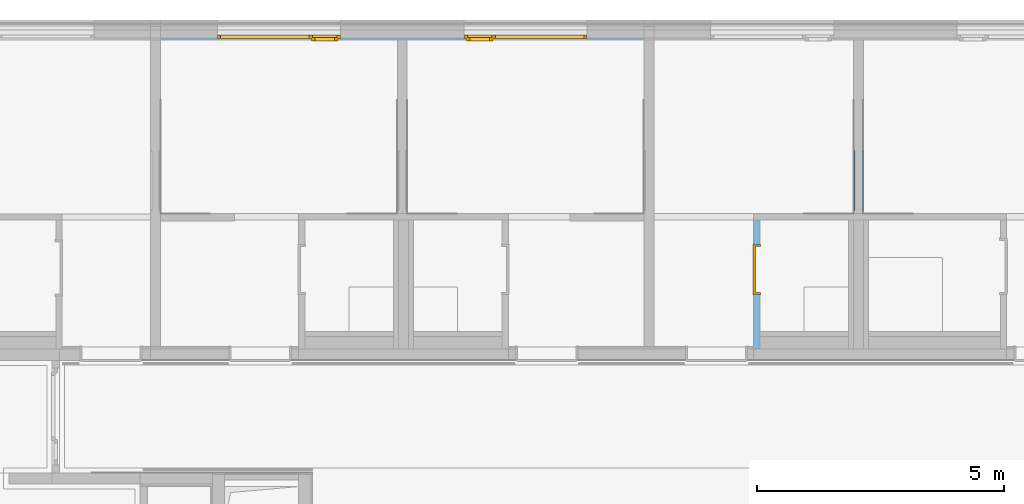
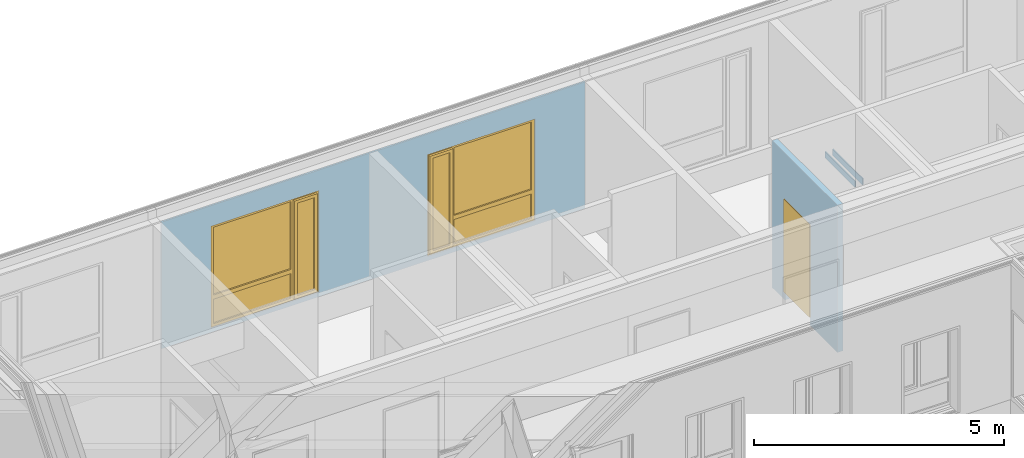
# One storey, part 148 of 207: 2 walls, 2 windows, 1 door, 3 openings, plus 2 elements that do not belong to this part.
"""IFC4 building model written with IfcOpenShell, lengths in metres."""

from ifc_helpers import new_model, entity, si_unit, converted_unit, derived_unit, frame, frame_2d, origin, origin_with_axes, place, context, subcontext, project, spatial, polyline, rectangle, outline, extrude, closed_shell, open_shell, faceted_brep, surface_model, source, transform, mapped, material, type_object, element, fill, save


model = new_model("IFC4")

# Units and contexts
model_context = context("Model", 3, precision=1e-05, world=origin())
body_context = subcontext(model_context, "Body", "Model", "MODEL_VIEW")
ifc_project = project(units=[si_unit("LENGTHUNIT", "METRE"), si_unit("AREAUNIT", "SQUARE_METRE"), si_unit("VOLUMEUNIT", "CUBIC_METRE"), si_unit("MASSUNIT", "GRAM", prefix="KILO"), converted_unit("PLANEANGLEUNIT", "DEGREE", entity("IfcPlaneAngleMeasure", 0.0174532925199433), si_unit("PLANEANGLEUNIT", "RADIAN"), dimensions=[0, 0, 0, 0, 0, 0, 0]), derived_unit("THERMALTRANSMITTANCEUNIT", [(si_unit("POWERUNIT", "WATT"), 1), (si_unit("THERMODYNAMICTEMPERATUREUNIT", "KELVIN"), -1), (si_unit("LENGTHUNIT", "METRE"), -2)]), derived_unit("VOLUMETRICFLOWRATEUNIT", [(si_unit("LENGTHUNIT", "METRE"), 3), (converted_unit("TIMEUNIT", "hour", entity("IfcTimeMeasure", 3600.0), si_unit("TIMEUNIT", "SECOND"), dimensions=[0, 0, 1, 0, 0, 0, 0]), -1), (si_unit("LENGTHUNIT", "METRE"), -1)])], contexts=[model_context])

# Site, building, storey
site_placement = place(None, origin())
site = spatial("IfcSite", under=ifc_project, at=site_placement, Name="Psychiatrie Neubau Wunstorf", CompositionType="ELEMENT")
building_placement = place(site_placement, origin())
building = spatial("IfcBuilding", under=site, at=building_placement, Name="Neubau H2 Stationsgebäude", CompositionType="ELEMENT")
storey_placement = place(building_placement, frame((0.0, 0.0, -0.2)))
storey = spatial("IfcBuildingStorey", under=building, at=storey_placement, Name="H2 Ebene 0", CompositionType="ELEMENT", Elevation=-0.2)

# Wall, openings, windows
ifc_material_1 = material(Name="WA-LB")
wall_1_placement = place(storey_placement, frame((76.1, 31.614, 0.5)))
wall_1 = element("IfcWall", 1, at=wall_1_placement, inside=storey, material=ifc_material_1, context=body_context, shape_type="SweptSolid", body=[
    extrude(rectangle(XDim=9.8, YDim=0.036, at=frame_2d((4.9, 0.018), x_axis=(1.0, 0.0))), origin_with_axes(), (0.0, 0.0, 1.0), 3.1),
])
opening_1_placement = place(wall_1_placement, frame((1.15, 0.0, 0.1), z_axis=(0.0, 1.0, 0.0), x_axis=(0.0, 0.0, 1.0)))
opening_1 = element("IfcOpeningElement", 2, at=opening_1_placement, cuts=wall_1, Name="Fensteröffnung", ObjectType="Opening", context=body_context, shape_type="SweptSolid", body=[
    extrude(outline(polyline([(2.5, 2.5), (2.5, 0.0), (0.0, 0.0), (0.0, 2.5), (2.5, 2.5)])), origin_with_axes(), (0.0, 0.0, 1.0), 0.036),
])
opening_2_placement = place(wall_1_placement, frame((6.15, 0.0, 0.1), z_axis=(0.0, 1.0, 0.0), x_axis=(0.0, 0.0, 1.0)))
opening_2 = element("IfcOpeningElement", 3, at=opening_2_placement, cuts=wall_1, Name="Fensteröffnung", ObjectType="Opening", context=body_context, shape_type="SweptSolid", body=[
    extrude(outline(polyline([(2.5, 2.5), (2.5, 0.0), (0.0, 0.0), (0.0, 2.5), (2.5, 2.5)])), origin_with_axes(), (0.0, 0.0, 1.0), 0.036),
])
shared_shape_1 = source(origin_with_axes(), body_context, "Body", "SurfaceModel", [
    surface_model("IfcShellBasedSurfaceModel", [(2.5, 0.0, 2.5), (2.5, 0.0, 0.0), (2.43, 0.0, 0.0), (2.43, 0.0, 2.5), (2.5, 0.0699999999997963, 0.0), (2.5, 0.0699999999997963, 2.5), (2.43, 0.0699999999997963, 2.5), (2.43, 0.0699999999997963, 0.0)], [closed_shell([[[0, 1, 2, 3]], [[4, 5, 6, 7]], [[1, 0, 5, 4]], [[2, 1, 4, 7]], [[3, 2, 7, 6]], [[0, 3, 6, 5]]], orient=[[False], [False], [False], [False], [False], [False]])]),
    surface_model("IfcShellBasedSurfaceModel", [(0.07, 0.0, 2.5), (0.07, 0.0, 0.0), (0.0, 0.0, 0.0), (0.0, 0.0, 2.5), (0.07, 0.0699999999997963, 0.0), (0.07, 0.0699999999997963, 2.5), (0.0, 0.0699999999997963, 2.5), (0.0, 0.0699999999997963, 0.0)], [closed_shell([[[0, 1, 2, 3]], [[4, 5, 6, 7]], [[1, 0, 5, 4]], [[2, 1, 4, 7]], [[3, 2, 7, 6]], [[0, 3, 6, 5]]], orient=[[False], [False], [False], [False], [False], [False]])]),
    surface_model("IfcShellBasedSurfaceModel", [(2.43, 0.0, 0.07), (2.43, 0.0, 0.0), (0.07, 0.0, 0.0), (0.07, 0.0, 0.07), (2.43, 0.0699999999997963, 0.0), (2.43, 0.0699999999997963, 0.07), (0.07, 0.0699999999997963, 0.07), (0.07, 0.0699999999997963, 0.0)], [closed_shell([[[0, 1, 2, 3]], [[4, 5, 6, 7]], [[1, 0, 5, 4]], [[2, 1, 4, 7]], [[3, 2, 7, 6]], [[0, 3, 6, 5]]], orient=[[False], [False], [False], [False], [False], [False]])]),
    surface_model("IfcShellBasedSurfaceModel", [(2.43, 0.0, 2.5), (2.43, 0.0, 2.43), (0.07, 0.0, 2.43), (0.07, 0.0, 2.5), (2.43, 0.0699999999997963, 2.43), (2.43, 0.0699999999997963, 2.5), (0.07, 0.0699999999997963, 2.5), (0.07, 0.0699999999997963, 2.43)], [closed_shell([[[0, 1, 2, 3]], [[4, 5, 6, 7]], [[1, 0, 5, 4]], [[2, 1, 4, 7]], [[3, 2, 7, 6]], [[0, 3, 6, 5]]], orient=[[False], [False], [False], [False], [False], [False]])]),
    surface_model("IfcShellBasedSurfaceModel", [(1.934285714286, 0.0, 2.43), (1.934285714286, 0.0, 0.07), (1.864285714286, 0.0, 0.07), (1.864285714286, 0.0, 2.43), (1.934285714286, 0.0699999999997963, 0.07), (1.934285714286, 0.0699999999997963, 2.43), (1.864285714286, 0.0699999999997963, 2.43), (1.864285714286, 0.0699999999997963, 0.07)], [closed_shell([[[0, 1, 2, 3]], [[4, 5, 6, 7]], [[1, 0, 5, 4]], [[2, 1, 4, 7]], [[3, 2, 7, 6]], [[0, 3, 6, 5]]], orient=[[False], [False], [False], [False], [False], [False]])]),
    surface_model("IfcShellBasedSurfaceModel", [(2.45, -0.0500000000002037, 2.45), (2.45, -0.0500000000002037, 0.05), (2.38, -0.0500000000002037, 0.05), (2.38, -0.0500000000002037, 2.45), (2.45, 0.0199999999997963, 0.05), (2.45, 0.0199999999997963, 2.45), (2.38, 0.0199999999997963, 2.45), (2.38, 0.0199999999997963, 0.05)], [closed_shell([[[0, 1, 2, 3]], [[4, 5, 6, 7]], [[1, 0, 5, 4]], [[2, 1, 4, 7]], [[3, 2, 7, 6]], [[0, 3, 6, 5]]], orient=[[False], [False], [False], [False], [False], [False]])]),
    surface_model("IfcShellBasedSurfaceModel", [(1.984285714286, -0.0500000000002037, 2.45), (1.984285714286, -0.0500000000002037, 0.05), (1.914285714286, -0.0500000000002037, 0.05), (1.914285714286, -0.0500000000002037, 2.45), (1.984285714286, 0.0199999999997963, 0.05), (1.984285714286, 0.0199999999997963, 2.45), (1.914285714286, 0.0199999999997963, 2.45), (1.914285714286, 0.0199999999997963, 0.05)], [closed_shell([[[0, 1, 2, 3]], [[4, 5, 6, 7]], [[1, 0, 5, 4]], [[2, 1, 4, 7]], [[3, 2, 7, 6]], [[0, 3, 6, 5]]], orient=[[False], [False], [False], [False], [False], [False]])]),
    surface_model("IfcShellBasedSurfaceModel", [(2.38, -0.0500000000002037, 0.12), (2.38, -0.0500000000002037, 0.05), (1.984285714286, -0.0500000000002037, 0.05), (1.984285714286, -0.0500000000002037, 0.12), (2.38, 0.0199999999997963, 0.05), (2.38, 0.0199999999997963, 0.12), (1.984285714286, 0.0199999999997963, 0.12), (1.984285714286, 0.0199999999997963, 0.05)], [closed_shell([[[0, 1, 2, 3]], [[4, 5, 6, 7]], [[1, 0, 5, 4]], [[2, 1, 4, 7]], [[3, 2, 7, 6]], [[0, 3, 6, 5]]], orient=[[False], [False], [False], [False], [False], [False]])]),
    surface_model("IfcShellBasedSurfaceModel", [(2.38, -0.0500000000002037, 2.45), (2.38, -0.0500000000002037, 2.38), (1.984285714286, -0.0500000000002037, 2.38), (1.984285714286, -0.0500000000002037, 2.45), (2.38, 0.0199999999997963, 2.38), (2.38, 0.0199999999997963, 2.45), (1.984285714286, 0.0199999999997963, 2.45), (1.984285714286, 0.0199999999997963, 2.38)], [closed_shell([[[0, 1, 2, 3]], [[4, 5, 6, 7]], [[1, 0, 5, 4]], [[2, 1, 4, 7]], [[3, 2, 7, 6]], [[0, 3, 6, 5]]], orient=[[False], [False], [False], [False], [False], [False]])]),
    surface_model("IfcShellBasedSurfaceModel", [(1.864285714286, 0.0, 0.77), (1.864285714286, 0.0, 0.67), (0.07, 0.0, 0.67), (0.07, 0.0, 0.77), (1.864285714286, 0.0699999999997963, 0.67), (1.864285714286, 0.0699999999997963, 0.77), (0.07, 0.0699999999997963, 0.77), (0.07, 0.0699999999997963, 0.67)], [closed_shell([[[0, 1, 2, 3]], [[4, 5, 6, 7]], [[1, 0, 5, 4]], [[2, 1, 4, 7]], [[3, 2, 7, 6]], [[0, 3, 6, 5]]], orient=[[False], [False], [False], [False], [False], [False]])]),
    surface_model("IfcShellBasedSurfaceModel", [(2.38, -0.0150000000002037, 0.12), (1.984285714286, -0.0150000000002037, 0.12), (1.984285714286, -0.0150000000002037, 2.38), (2.38, -0.0150000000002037, 2.38)], [open_shell([[[0, 1, 2, 3]]], orient=[[False]])]),
    surface_model("IfcShellBasedSurfaceModel", [(1.864285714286, 0.0349999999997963, 0.07), (0.07, 0.0349999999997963, 0.07), (0.07, 0.0349999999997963, 0.67), (1.864285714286, 0.0349999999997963, 0.67)], [open_shell([[[0, 1, 2, 3]]], orient=[[False]])]),
    surface_model("IfcShellBasedSurfaceModel", [(1.864285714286, 0.0349999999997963, 0.77), (0.07, 0.0349999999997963, 0.77), (0.07, 0.0349999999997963, 2.43), (1.864285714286, 0.0349999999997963, 2.43)], [open_shell([[[0, 1, 2, 3]]], orient=[[False]])]),
])
window_1_placement = place(opening_1_placement, frame((0.0, 0.0, 0.03), z_axis=(1.0, 0.0, 0.0), x_axis=(0.0, 1.0, 0.0)))
window_1 = element("IfcWindow", 4, at=window_1_placement, inside=storey, Name="Fenster", OverallHeight=2.5, OverallWidth=2.5, PartitioningType="USERDEFINED", PredefinedType="WINDOW", context=body_context, shape_type="MappedRepresentation", body=[
    mapped(shared_shape_1, transform((0.0, 0.0, 0.0), x_axis=(1.0, 0.0, 0.0), y_axis=(0.0, 1.0, 0.0), z_axis=(0.0, 0.0, 1.0), scale=1.0)),
])
fill(opening_1, window_1)
shared_shape_2 = source(origin_with_axes(), body_context, "Body", "SurfaceModel", [
    surface_model("IfcShellBasedSurfaceModel", [(0.0, 0.0, 2.5), (0.07, 0.0, 2.5), (0.07, 0.0, 0.0), (0.0, 0.0, 0.0), (0.0, 0.0699999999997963, 0.0), (0.07, 0.0699999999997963, 0.0), (0.07, 0.0699999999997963, 2.5), (0.0, 0.0699999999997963, 2.5)], [closed_shell([[[0, 1, 2, 3]], [[4, 5, 6, 7]], [[3, 4, 7, 0]], [[2, 5, 4, 3]], [[1, 6, 5, 2]], [[0, 7, 6, 1]]], orient=[[False], [False], [False], [False], [False], [False]])]),
    surface_model("IfcShellBasedSurfaceModel", [(2.43, 0.0, 2.5), (2.5, 0.0, 2.5), (2.5, 0.0, 0.0), (2.43, 0.0, 0.0), (2.43, 0.0699999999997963, 0.0), (2.5, 0.0699999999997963, 0.0), (2.5, 0.0699999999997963, 2.5), (2.43, 0.0699999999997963, 2.5)], [closed_shell([[[0, 1, 2, 3]], [[4, 5, 6, 7]], [[3, 4, 7, 0]], [[2, 5, 4, 3]], [[1, 6, 5, 2]], [[0, 7, 6, 1]]], orient=[[False], [False], [False], [False], [False], [False]])]),
    surface_model("IfcShellBasedSurfaceModel", [(0.07, 0.0, 0.07), (2.43, 0.0, 0.07), (2.43, 0.0, 0.0), (0.07, 0.0, 0.0), (0.07, 0.0699999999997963, 0.0), (2.43, 0.0699999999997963, 0.0), (2.43, 0.0699999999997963, 0.07), (0.07, 0.0699999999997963, 0.07)], [closed_shell([[[0, 1, 2, 3]], [[4, 5, 6, 7]], [[3, 4, 7, 0]], [[2, 5, 4, 3]], [[1, 6, 5, 2]], [[0, 7, 6, 1]]], orient=[[False], [False], [False], [False], [False], [False]])]),
    surface_model("IfcShellBasedSurfaceModel", [(0.07, 0.0, 2.5), (2.43, 0.0, 2.5), (2.43, 0.0, 2.43), (0.07, 0.0, 2.43), (0.07, 0.0699999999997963, 2.43), (2.43, 0.0699999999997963, 2.43), (2.43, 0.0699999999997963, 2.5), (0.07, 0.0699999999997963, 2.5)], [closed_shell([[[0, 1, 2, 3]], [[4, 5, 6, 7]], [[3, 4, 7, 0]], [[2, 5, 4, 3]], [[1, 6, 5, 2]], [[0, 7, 6, 1]]], orient=[[False], [False], [False], [False], [False], [False]])]),
    surface_model("IfcShellBasedSurfaceModel", [(0.565714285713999, 0.0, 2.43), (0.635714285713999, 0.0, 2.43), (0.635714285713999, 0.0, 0.07), (0.565714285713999, 0.0, 0.07), (0.565714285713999, 0.0699999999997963, 0.07), (0.635714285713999, 0.0699999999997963, 0.07), (0.635714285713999, 0.0699999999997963, 2.43), (0.565714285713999, 0.0699999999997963, 2.43)], [closed_shell([[[0, 1, 2, 3]], [[4, 5, 6, 7]], [[3, 4, 7, 0]], [[2, 5, 4, 3]], [[1, 6, 5, 2]], [[0, 7, 6, 1]]], orient=[[False], [False], [False], [False], [False], [False]])]),
    surface_model("IfcShellBasedSurfaceModel", [(0.05, -0.0500000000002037, 2.45), (0.12, -0.0500000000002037, 2.45), (0.12, -0.0500000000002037, 0.05), (0.05, -0.0500000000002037, 0.05), (0.05, 0.0199999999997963, 0.05), (0.12, 0.0199999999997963, 0.05), (0.12, 0.0199999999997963, 2.45), (0.05, 0.0199999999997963, 2.45)], [closed_shell([[[0, 1, 2, 3]], [[4, 5, 6, 7]], [[3, 4, 7, 0]], [[2, 5, 4, 3]], [[1, 6, 5, 2]], [[0, 7, 6, 1]]], orient=[[False], [False], [False], [False], [False], [False]])]),
    surface_model("IfcShellBasedSurfaceModel", [(0.515714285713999, -0.0500000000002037, 2.45), (0.585714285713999, -0.0500000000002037, 2.45), (0.585714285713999, -0.0500000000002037, 0.05), (0.515714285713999, -0.0500000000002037, 0.05), (0.515714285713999, 0.0199999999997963, 0.05), (0.585714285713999, 0.0199999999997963, 0.05), (0.585714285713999, 0.0199999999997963, 2.45), (0.515714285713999, 0.0199999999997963, 2.45)], [closed_shell([[[0, 1, 2, 3]], [[4, 5, 6, 7]], [[3, 4, 7, 0]], [[2, 5, 4, 3]], [[1, 6, 5, 2]], [[0, 7, 6, 1]]], orient=[[False], [False], [False], [False], [False], [False]])]),
    surface_model("IfcShellBasedSurfaceModel", [(0.12, -0.0500000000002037, 0.12), (0.515714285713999, -0.0500000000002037, 0.12), (0.515714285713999, -0.0500000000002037, 0.05), (0.12, -0.0500000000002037, 0.05), (0.12, 0.0199999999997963, 0.05), (0.515714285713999, 0.0199999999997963, 0.05), (0.515714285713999, 0.0199999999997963, 0.12), (0.12, 0.0199999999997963, 0.12)], [closed_shell([[[0, 1, 2, 3]], [[4, 5, 6, 7]], [[3, 4, 7, 0]], [[2, 5, 4, 3]], [[1, 6, 5, 2]], [[0, 7, 6, 1]]], orient=[[False], [False], [False], [False], [False], [False]])]),
    surface_model("IfcShellBasedSurfaceModel", [(0.12, -0.0500000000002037, 2.45), (0.515714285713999, -0.0500000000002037, 2.45), (0.515714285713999, -0.0500000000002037, 2.38), (0.12, -0.0500000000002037, 2.38), (0.12, 0.0199999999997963, 2.38), (0.515714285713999, 0.0199999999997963, 2.38), (0.515714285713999, 0.0199999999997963, 2.45), (0.12, 0.0199999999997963, 2.45)], [closed_shell([[[0, 1, 2, 3]], [[4, 5, 6, 7]], [[3, 4, 7, 0]], [[2, 5, 4, 3]], [[1, 6, 5, 2]], [[0, 7, 6, 1]]], orient=[[False], [False], [False], [False], [False], [False]])]),
    surface_model("IfcShellBasedSurfaceModel", [(0.635714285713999, 0.0, 0.77), (2.43, 0.0, 0.77), (2.43, 0.0, 0.67), (0.635714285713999, 0.0, 0.67), (0.635714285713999, 0.0699999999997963, 0.67), (2.43, 0.0699999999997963, 0.67), (2.43, 0.0699999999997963, 0.77), (0.635714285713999, 0.0699999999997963, 0.77)], [closed_shell([[[0, 1, 2, 3]], [[4, 5, 6, 7]], [[3, 4, 7, 0]], [[2, 5, 4, 3]], [[1, 6, 5, 2]], [[0, 7, 6, 1]]], orient=[[False], [False], [False], [False], [False], [False]])]),
    surface_model("IfcShellBasedSurfaceModel", [(0.12, -0.0150000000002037, 0.12), (0.12, -0.0150000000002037, 2.38), (0.515714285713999, -0.0150000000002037, 2.38), (0.515714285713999, -0.0150000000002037, 0.12)], [open_shell([[[0, 1, 2, 3]]], orient=[[False]])]),
    surface_model("IfcShellBasedSurfaceModel", [(0.635714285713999, 0.0349999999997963, 0.07), (0.635714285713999, 0.0349999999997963, 0.67), (2.43, 0.0349999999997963, 0.67), (2.43, 0.0349999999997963, 0.07)], [open_shell([[[0, 1, 2, 3]]], orient=[[False]])]),
    surface_model("IfcShellBasedSurfaceModel", [(0.635714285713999, 0.0349999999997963, 0.77), (0.635714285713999, 0.0349999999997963, 2.43), (2.43, 0.0349999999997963, 2.43), (2.43, 0.0349999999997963, 0.77)], [open_shell([[[0, 1, 2, 3]]], orient=[[False]])]),
])
window_2_placement = place(opening_2_placement, frame((0.0, 0.0, 0.03), z_axis=(1.0, 0.0, 0.0), x_axis=(0.0, 1.0, 0.0)))
window_2 = element("IfcWindow", 5, at=window_2_placement, inside=storey, Name="Fenster", OverallHeight=2.5, OverallWidth=2.5, PartitioningType="USERDEFINED", PredefinedType="WINDOW", context=body_context, shape_type="MappedRepresentation", body=[
    mapped(shared_shape_2, transform((0.0, 0.0, 0.0), x_axis=(1.0, 0.0, 0.0), y_axis=(0.0, 1.0, 0.0), z_axis=(0.0, 0.0, 1.0), scale=1.0)),
])
fill(opening_2, window_2)

# Walls
for number, where, name in (
    (6, (90.3250000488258, 28.1628, 1.625), "WV 1.1"),
    (7, (90.1500000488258, 28.1628, 1.625), "WV 1.1"),
):
    element("IfcWall", number, at=place(storey_placement, frame(where)), inside=storey, Name=name, context=body_context, shape_type="Brep", body=[
        faceted_brep([(0.025, 1.2, 0.0), (0.0, 1.2, 0.0), (0.0, 0.0, 0.0), (0.025, 0.0, 0.0), (0.0, 1.2, 0.15), (0.025, 1.2, 0.15), (0.025, 0.0, 0.15), (0.0, 0.0, 0.15)], [[[0, 1, 2, 3]], [[4, 5, 6, 7]], [[1, 0, 5, 4]], [[2, 1, 4, 7]], [[3, 2, 7, 6]], [[0, 3, 6, 5]]], orient=[[False], [False], [False], [False], [False], [False]]),
    ])

# Wall, opening, door
ifc_material_2 = material(Name="WI-LB")
wall_2_placement = place(storey_placement, frame((88.125, 27.9645, 0.0), z_axis=(0.0, 0.0, 1.0), x_axis=(0.0, -1.0, 0.0)))
wall_2 = element("IfcWall", 8, at=wall_2_placement, inside=storey, material=ifc_material_2, context=body_context, shape_type="SweptSolid", body=[
    extrude(rectangle(XDim=2.615, YDim=0.125, at=frame_2d((1.3075, 0.0625), x_axis=(1.0, 0.0))), origin_with_axes(), (0.0, 0.0, 1.0), 3.6),
])
opening_3_placement = place(wall_2_placement, frame((1.51, 0.125, 0.0), z_axis=(0.0, -1.0, 0.0), x_axis=(0.0, 0.0, 1.0)))
opening_3 = element("IfcOpeningElement", 9, at=opening_3_placement, cuts=wall_2, Name="Türöffnung", ObjectType="Opening", context=body_context, shape_type="SweptSolid", body=[
    extrude(outline(polyline([(2.46, 1.01), (2.46, 0.0), (0.0, 0.0), (0.0, 1.01), (2.46, 1.01)])), origin_with_axes(), (0.0, 0.0, 1.0), 0.125),
])
ifc_material_3 = material(Name="TI-1F-UZ-D-N")
door_type = type_object("IfcDoorType", Name="SMT", OperationType="SINGLE_SWING_RIGHT", ParameterTakesPrecedence=False, PredefinedType="DOOR")
shared_shape_3 = source(origin_with_axes(), body_context, "Body", "Brep", [
    faceted_brep([(1.04999999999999, 0.0125000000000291, 0.0), (1.04999999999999, 0.112500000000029, 0.0), (1.00999999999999, 0.112500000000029, 0.0), (1.00999999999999, 0.0125000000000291, 0.0), (1.04999999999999, 0.112500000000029, 3.6), (1.04999999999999, 0.0125000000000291, 3.6), (1.00999999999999, 0.0125000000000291, 3.6), (1.00999999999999, 0.112500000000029, 3.6)], [[[0, 1, 2, 3]], [[4, 5, 6, 7]], [[1, 0, 5, 4]], [[2, 1, 4, 7]], [[3, 2, 7, 6]], [[0, 3, 6, 5]]], orient=[[False], [False], [False], [False], [False], [False]]),
    faceted_brep([(0.0, 0.0125000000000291, 0.0), (0.0, 0.112500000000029, 0.0), (-0.0400000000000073, 0.112500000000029, 0.0), (-0.0400000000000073, 0.0125000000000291, 0.0), (0.0, 0.112500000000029, 3.6), (0.0, 0.0125000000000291, 3.6), (-0.0400000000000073, 0.0125000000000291, 3.6), (-0.0400000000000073, 0.112500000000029, 3.6)], [[[0, 1, 2, 3]], [[4, 5, 6, 7]], [[1, 0, 5, 4]], [[2, 1, 4, 7]], [[3, 2, 7, 6]], [[0, 3, 6, 5]]], orient=[[False], [False], [False], [False], [False], [False]]),
    faceted_brep([(1.00999999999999, 0.0125000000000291, 2.46), (1.00999999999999, 0.112500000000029, 2.46), (0.0, 0.112500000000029, 2.46), (0.0, 0.0125000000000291, 2.46), (1.00999999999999, 0.112500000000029, 2.5), (1.00999999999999, 0.0125000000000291, 2.5), (0.0, 0.0125000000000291, 2.5), (0.0, 0.112500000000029, 2.5)], [[[0, 1, 2, 3]], [[4, 5, 6, 7]], [[1, 0, 5, 4]], [[2, 1, 4, 7]], [[3, 2, 7, 6]], [[0, 3, 6, 5]]], orient=[[False], [False], [False], [False], [False], [False]]),
])
shared_shape_4 = source(origin_with_axes(), body_context, "Body", "Brep", [
    faceted_brep([(0.0, -0.0149999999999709, 2.46), (0.0399999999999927, -0.0149999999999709, 2.46), (0.0399999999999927, -0.0149999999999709, 0.2), (0.0, -0.0149999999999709, 0.2), (0.0, 0.140000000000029, 0.2), (0.0399999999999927, 0.140000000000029, 0.2), (0.0399999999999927, 0.140000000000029, 2.46), (0.0, 0.140000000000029, 2.46)], [[[0, 1, 2, 3]], [[4, 5, 6, 7]], [[3, 4, 7, 0]], [[2, 5, 4, 3]], [[1, 6, 5, 2]], [[0, 7, 6, 1]]], orient=[[False], [False], [False], [False], [False], [False]]),
    faceted_brep([(0.0, -0.0149999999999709, 2.475), (0.0, -0.0149999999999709, 0.2), (-0.0150000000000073, -0.0149999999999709, 0.2), (-0.0150000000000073, -0.0149999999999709, 2.475), (0.0, 0.0, 0.2), (0.0, 0.0, 2.475), (-0.0150000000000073, 0.0, 2.475), (-0.0150000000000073, 0.0, 0.2)], [[[0, 1, 2, 3]], [[4, 5, 6, 7]], [[1, 0, 5, 4]], [[2, 1, 4, 7]], [[3, 2, 7, 6]], [[0, 3, 6, 5]]], orient=[[False], [False], [False], [False], [False], [False]]),
    faceted_brep([(0.0, 0.125000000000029, 2.475), (0.0, 0.125000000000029, 0.2), (-0.0150000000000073, 0.125000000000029, 0.2), (-0.0150000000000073, 0.125000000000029, 2.475), (0.0, 0.140000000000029, 0.2), (0.0, 0.140000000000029, 2.475), (-0.0150000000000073, 0.140000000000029, 2.475), (-0.0150000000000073, 0.140000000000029, 0.2)], [[[0, 1, 2, 3]], [[4, 5, 6, 7]], [[1, 0, 5, 4]], [[2, 1, 4, 7]], [[3, 2, 7, 6]], [[0, 3, 6, 5]]], orient=[[False], [False], [False], [False], [False], [False]]),
    faceted_brep([(0.969999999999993, -0.0149999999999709, 2.46), (1.00999999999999, -0.0149999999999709, 2.46), (1.00999999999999, -0.0149999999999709, 0.2), (0.969999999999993, -0.0149999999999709, 0.2), (0.969999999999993, 0.140000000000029, 0.2), (1.00999999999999, 0.140000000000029, 0.2), (1.00999999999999, 0.140000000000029, 2.46), (0.969999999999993, 0.140000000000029, 2.46)], [[[0, 1, 2, 3]], [[4, 5, 6, 7]], [[3, 4, 7, 0]], [[2, 5, 4, 3]], [[1, 6, 5, 2]], [[0, 7, 6, 1]]], orient=[[False], [False], [False], [False], [False], [False]]),
    faceted_brep([(1.00999999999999, -0.0149999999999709, 2.475), (1.02499999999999, -0.0149999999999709, 2.475), (1.02499999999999, -0.0149999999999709, 0.2), (1.00999999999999, -0.0149999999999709, 0.2), (1.00999999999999, 0.0, 0.2), (1.02499999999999, 0.0, 0.2), (1.02499999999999, 0.0, 2.475), (1.00999999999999, 0.0, 2.475)], [[[0, 1, 2, 3]], [[4, 5, 6, 7]], [[3, 4, 7, 0]], [[2, 5, 4, 3]], [[1, 6, 5, 2]], [[0, 7, 6, 1]]], orient=[[False], [False], [False], [False], [False], [False]]),
    faceted_brep([(1.00999999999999, 0.125000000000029, 2.475), (1.02499999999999, 0.125000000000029, 2.475), (1.02499999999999, 0.125000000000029, 0.2), (1.00999999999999, 0.125000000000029, 0.2), (1.00999999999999, 0.140000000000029, 0.2), (1.02499999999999, 0.140000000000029, 0.2), (1.02499999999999, 0.140000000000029, 2.475), (1.00999999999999, 0.140000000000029, 2.475)], [[[0, 1, 2, 3]], [[4, 5, 6, 7]], [[3, 4, 7, 0]], [[2, 5, 4, 3]], [[1, 6, 5, 2]], [[0, 7, 6, 1]]], orient=[[False], [False], [False], [False], [False], [False]]),
    faceted_brep([(0.0399999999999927, -0.0149999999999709, 2.46), (0.969999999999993, -0.0149999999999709, 2.46), (0.969999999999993, -0.0149999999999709, 2.42), (0.0399999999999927, -0.0149999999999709, 2.42), (0.0399999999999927, 0.140000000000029, 2.42), (0.969999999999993, 0.140000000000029, 2.42), (0.969999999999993, 0.140000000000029, 2.46), (0.0399999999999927, 0.140000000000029, 2.46)], [[[0, 1, 2, 3]], [[4, 5, 6, 7]], [[3, 4, 7, 0]], [[2, 5, 4, 3]], [[1, 6, 5, 2]], [[0, 7, 6, 1]]], orient=[[False], [False], [False], [False], [False], [False]]),
    faceted_brep([(0.0, -0.0149999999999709, 2.475), (1.00999999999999, -0.0149999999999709, 2.475), (1.00999999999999, -0.0149999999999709, 2.46), (0.0, -0.0149999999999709, 2.46), (0.0, 0.0, 2.46), (1.00999999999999, 0.0, 2.46), (1.00999999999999, 0.0, 2.475), (0.0, 0.0, 2.475)], [[[0, 1, 2, 3]], [[4, 5, 6, 7]], [[3, 4, 7, 0]], [[2, 5, 4, 3]], [[1, 6, 5, 2]], [[0, 7, 6, 1]]], orient=[[False], [False], [False], [False], [False], [False]]),
    faceted_brep([(0.0, 0.125000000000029, 2.475), (1.00999999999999, 0.125000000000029, 2.475), (1.00999999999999, 0.125000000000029, 2.46), (0.0, 0.125000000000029, 2.46), (0.0, 0.140000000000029, 2.46), (1.00999999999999, 0.140000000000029, 2.46), (1.00999999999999, 0.140000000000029, 2.475), (0.0, 0.140000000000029, 2.475)], [[[0, 1, 2, 3]], [[4, 5, 6, 7]], [[3, 4, 7, 0]], [[2, 5, 4, 3]], [[1, 6, 5, 2]], [[0, 7, 6, 1]]], orient=[[False], [False], [False], [False], [False], [False]]),
    faceted_brep([(0.0249999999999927, 0.0910000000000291, 2.435), (0.984999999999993, 0.0910000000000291, 2.435), (0.984999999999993, 0.0910000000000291, 0.2), (0.0249999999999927, 0.0910000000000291, 0.2), (0.0249999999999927, 0.141000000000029, 0.2), (0.984999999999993, 0.141000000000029, 0.2), (0.984999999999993, 0.141000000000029, 2.435), (0.0249999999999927, 0.141000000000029, 2.435)], [[[0, 1, 2, 3]], [[4, 5, 6, 7]], [[3, 4, 7, 0]], [[2, 5, 4, 3]], [[1, 6, 5, 2]], [[0, 7, 6, 1]]], orient=[[False], [False], [False], [False], [False], [False]]),
])
door_placement = place(opening_3_placement, frame((0.0, 0.0, 0.0), z_axis=(1.0, 0.0, 0.0), x_axis=(0.0, 1.0, 0.0)))
door = element("IfcDoor", 10, at=door_placement, inside=storey, type_object=door_type, material=ifc_material_3, Name="SMT", OverallHeight=2.46, OverallWidth=1.01, context=body_context, shape_type="MappedRepresentation", body=[
    mapped(shared_shape_3, transform((0.0, 0.0, 0.0), x_axis=(1.0, 0.0, 0.0), y_axis=(0.0, 1.0, 0.0), z_axis=(0.0, 0.0, 1.0), scale=1.0)),
    mapped(shared_shape_4, transform((0.0, 0.0, 0.0), x_axis=(1.0, 0.0, 0.0), y_axis=(0.0, 1.0, 0.0), z_axis=(0.0, 0.0, 1.0), scale=1.0)),
])
fill(opening_3, door)

save(model, "model.ifc")
